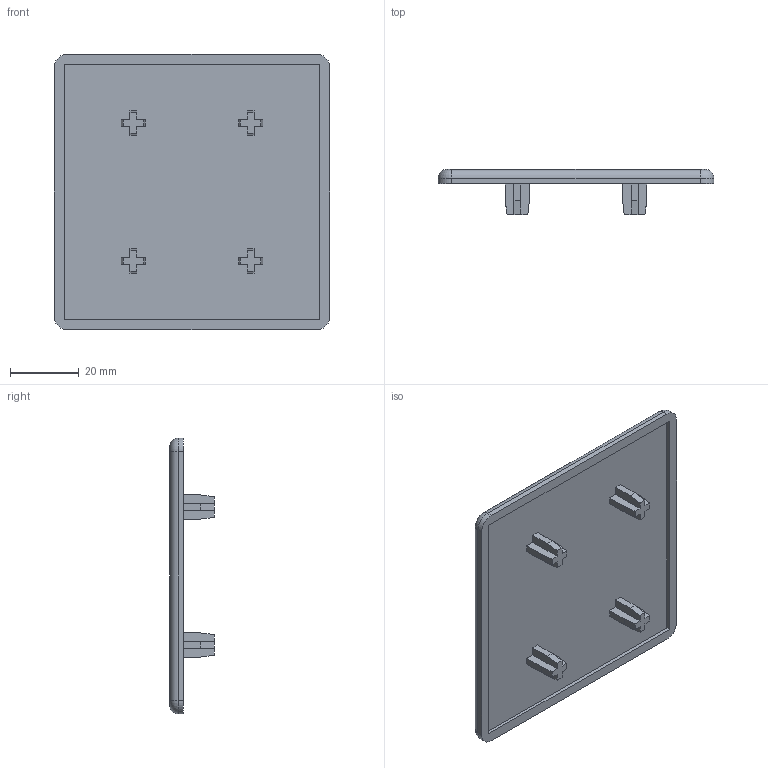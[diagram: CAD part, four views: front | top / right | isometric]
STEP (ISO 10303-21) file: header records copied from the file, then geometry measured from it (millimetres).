
FILE_DESCRIPTION (( 'STEP AP203' ), '1' );
FILE_NAME ('421060_Abdeckkappe 8 80x80.step', '2022-06-24T07:26:17', ( '' ), ( '' ), 'SwSTEP 2.0', 'SolidWorks 2021', '' );
FILE_SCHEMA (( 'CONFIG_CONTROL_DESIGN' ));
Length unit declared in the file: millimetre
Products named in the file (1): 421060_Abdeckkappe 8 80x80
Bounding box: 80 x 13 x 80 mm (x, y, z)
Volume: 20582.3 mm3; surface area: 15056.1 mm2
Topology: 1 solids, 1 shells, 91 faces, 244 edges, 160 vertices
Faces by surface type: plane 79, cylinder 8, torus 4
Entity records: 2871 total; most frequent: CARTESIAN_POINT 496, ORIENTED_EDGE 488, DIRECTION 448, EDGE_CURVE 244, LINE 224, VECTOR 224, VERTEX_POINT 160, AXIS2_PLACEMENT_3D 112
